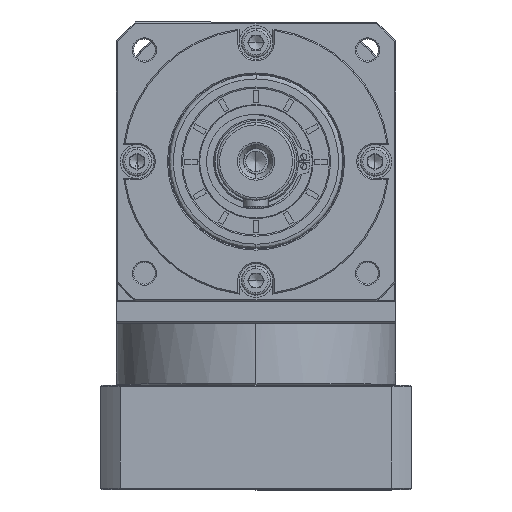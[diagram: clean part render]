
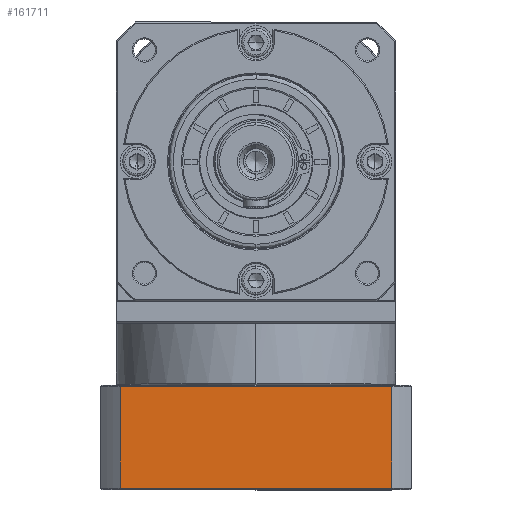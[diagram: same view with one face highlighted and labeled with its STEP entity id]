
A CAD part, top view. The second image highlights one B-rep face of the part: STEP entity #161711.
In plain terms, the highlighted planar face has unit normal (0, 0, 1).
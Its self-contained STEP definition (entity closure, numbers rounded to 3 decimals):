
#3969 = PLANE ( 'NONE',  #48430 ) ;
#4547 = CARTESIAN_POINT ( 'NONE',  ( -246.845, -152.343, 104.735 ) ) ;
#7527 = VECTOR ( 'NONE', #122384, 1000. ) ;
#15469 = LINE ( 'NONE', #37478, #86932 ) ;
#16929 = FACE_OUTER_BOUND ( 'NONE', #170814, .T. ) ;
#18062 = DIRECTION ( 'NONE',  ( -1., 0., 0. ) ) ;
#26188 = VERTEX_POINT ( 'NONE', #85682 ) ;
#27877 = DIRECTION ( 'NONE',  ( -1., 0., 0. ) ) ;
#32408 = VECTOR ( 'NONE', #111976, 1000. ) ;
#37478 = CARTESIAN_POINT ( 'NONE',  ( -246.845, -109.843, 104.735 ) ) ;
#41105 = EDGE_CURVE ( 'NONE', #160962, #165311, #15469, .T. ) ;
#42365 = CARTESIAN_POINT ( 'NONE',  ( -238.783, -151.843, 104.735 ) ) ;
#48399 = EDGE_CURVE ( 'NONE', #165311, #26188, #68165, .T. ) ;
#48430 = AXIS2_PLACEMENT_3D ( 'NONE', #4547, #98561, #18062 ) ;
#54310 = ORIENTED_EDGE ( 'NONE', *, *, #92687, .F. ) ;
#61857 = CARTESIAN_POINT ( 'NONE',  ( -238.783, -109.843, 104.735 ) ) ;
#68165 = LINE ( 'NONE', #151954, #32408 ) ;
#69485 = ORIENTED_EDGE ( 'NONE', *, *, #41105, .F. ) ;
#80584 = EDGE_CURVE ( 'NONE', #135379, #160962, #146265, .T. ) ;
#81150 = CARTESIAN_POINT ( 'NONE',  ( -126.908, -109.843, 104.735 ) ) ;
#85682 = CARTESIAN_POINT ( 'NONE',  ( -126.908, -151.843, 104.735 ) ) ;
#86932 = VECTOR ( 'NONE', #131430, 1000. ) ;
#92687 = EDGE_CURVE ( 'NONE', #26188, #135379, #131269, .T. ) ;
#94877 = CARTESIAN_POINT ( 'NONE',  ( -246.845, -151.843, 104.735 ) ) ;
#96005 = CARTESIAN_POINT ( 'NONE',  ( -238.783, -152.343, 104.735 ) ) ;
#98561 = DIRECTION ( 'NONE',  ( 0., 0., -1. ) ) ;
#99801 = VECTOR ( 'NONE', #27877, 1000. ) ;
#107386 = ORIENTED_EDGE ( 'NONE', *, *, #48399, .F. ) ;
#111976 = DIRECTION ( 'NONE',  ( 0., -1., 0. ) ) ;
#122384 = DIRECTION ( 'NONE',  ( 0., 1., 0. ) ) ;
#125450 = ORIENTED_EDGE ( 'NONE', *, *, #80584, .F. ) ;
#131269 = LINE ( 'NONE', #94877, #99801 ) ;
#131430 = DIRECTION ( 'NONE',  ( 1., 0., 0. ) ) ;
#135379 = VERTEX_POINT ( 'NONE', #42365 ) ;
#146265 = LINE ( 'NONE', #96005, #7527 ) ;
#151954 = CARTESIAN_POINT ( 'NONE',  ( -126.908, 143.071, 104.735 ) ) ;
#160962 = VERTEX_POINT ( 'NONE', #61857 ) ;
#161711 = ADVANCED_FACE ( 'NONE', ( #16929 ), #3969, .F. ) ;
#165311 = VERTEX_POINT ( 'NONE', #81150 ) ;
#170814 = EDGE_LOOP ( 'NONE', ( #107386, #69485, #125450, #54310 ) ) ;
